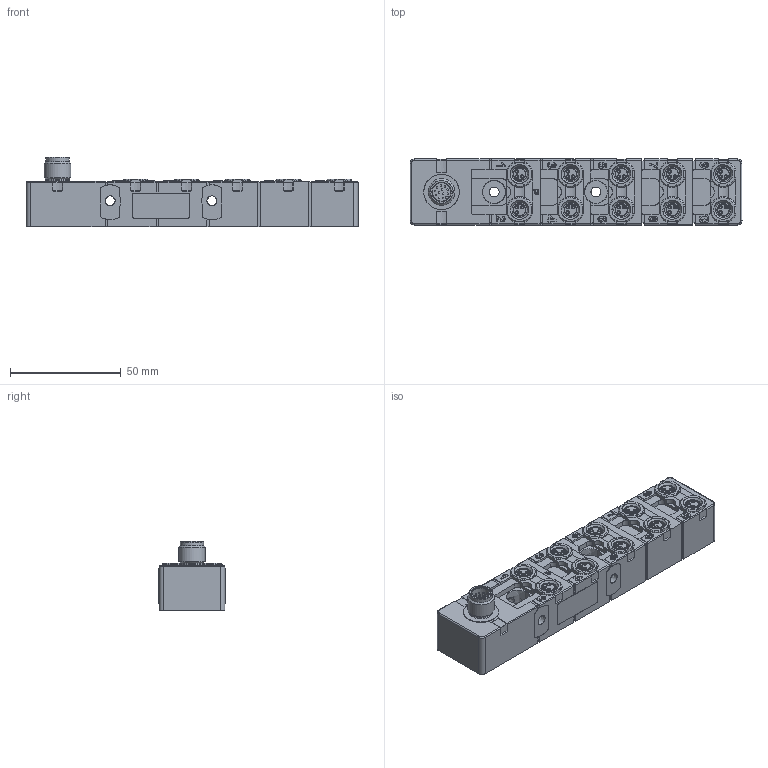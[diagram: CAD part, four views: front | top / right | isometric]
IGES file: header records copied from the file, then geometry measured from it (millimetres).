
Global section: file name: E:\lem\3DCAD_MD_7XXP_11_108IO3_12.igs; native system: NX V8.5; preprocessor: SIEMENS PLM Software NX 8.5; date: 20161104.112650; units: millimetre
Bounding box: 150 x 30 x 31.5 mm (x, y, z)
Surface area: 20150.8 mm2 (no closed solid volume)
Topology: 0 solids, 0 shells, 1070 faces, 6920 edges, 6876 vertices
Faces by surface type: bspline 1070
